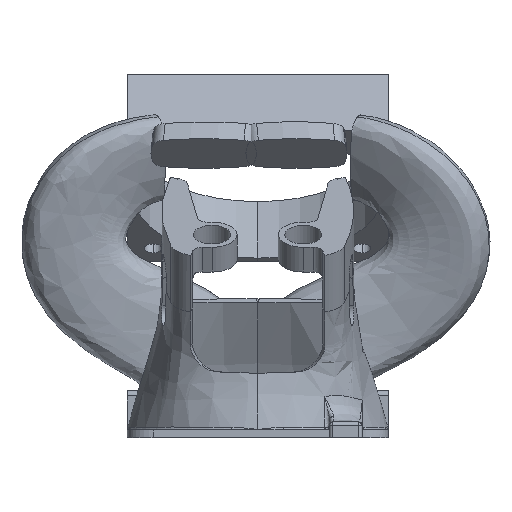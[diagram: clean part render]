
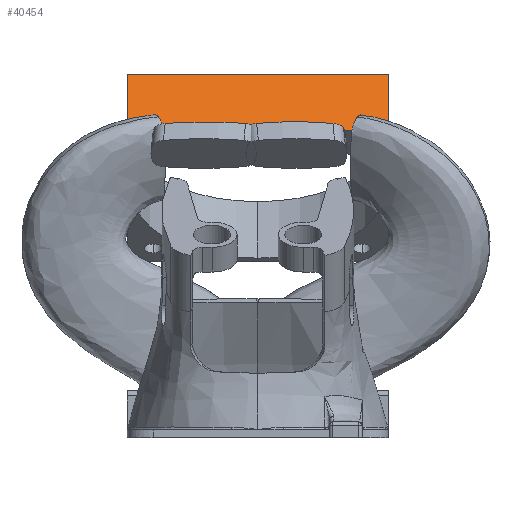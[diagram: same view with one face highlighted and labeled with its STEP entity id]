
A CAD part, front view. The second image highlights one B-rep face of the part: STEP entity #40454.
In plain terms, the highlighted planar face has unit normal (0, -0.866, 0.5).
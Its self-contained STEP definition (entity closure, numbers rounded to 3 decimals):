
#991 = VERTEX_POINT ( 'NONE', #72565 ) ;
#1232 = DIRECTION ( 'NONE',  ( 0., 0.866, -0.5 ) ) ;
#6567 = CARTESIAN_POINT ( 'NONE',  ( 0., -23., 47. ) ) ;
#7908 = FACE_OUTER_BOUND ( 'NONE', #25167, .T. ) ;
#14751 = DIRECTION ( 'NONE',  ( 0., -0.5, -0.866 ) ) ;
#17419 = VECTOR ( 'NONE', #19162, 1000. ) ;
#19162 = DIRECTION ( 'NONE',  ( 1., 0., 0. ) ) ;
#20858 = EDGE_CURVE ( 'NONE', #991, #77442, #64913, .T. ) ;
#22228 = ORIENTED_EDGE ( 'NONE', *, *, #76415, .T. ) ;
#22409 = EDGE_CURVE ( 'NONE', #991, #37638, #53344, .T. ) ;
#25167 = EDGE_LOOP ( 'NONE', ( #42322, #22228, #50766, #66578, #77341 ) ) ;
#26836 = LINE ( 'NONE', #52895, #17419 ) ;
#31633 = EDGE_CURVE ( 'NONE', #37638, #71626, #35333, .T. ) ;
#33324 = DIRECTION ( 'NONE',  ( 1., 0., 0. ) ) ;
#35333 = LINE ( 'NONE', #53939, #68964 ) ;
#35358 = EDGE_CURVE ( 'NONE', #77442, #55974, #26836, .T. ) ;
#37638 = VERTEX_POINT ( 'NONE', #87181 ) ;
#40454 = ADVANCED_FACE ( 'NONE', ( #7908 ), #55218, .F. ) ;
#42322 = ORIENTED_EDGE ( 'NONE', *, *, #35358, .T. ) ;
#42986 = CARTESIAN_POINT ( 'NONE',  ( -20., -23., 47. ) ) ;
#46851 = CARTESIAN_POINT ( 'NONE',  ( -20., -23., 47. ) ) ;
#50766 = ORIENTED_EDGE ( 'NONE', *, *, #31633, .F. ) ;
#52146 = VECTOR ( 'NONE', #33324, 1000. ) ;
#52611 = CARTESIAN_POINT ( 'NONE',  ( -20., -18., 55.66 ) ) ;
#52895 = CARTESIAN_POINT ( 'NONE',  ( -20., -23., 47. ) ) ;
#53344 = LINE ( 'NONE', #69932, #87011 ) ;
#53939 = CARTESIAN_POINT ( 'NONE',  ( 20., -18., 55.66 ) ) ;
#54054 = CARTESIAN_POINT ( 'NONE',  ( -20., -18., 55.66 ) ) ;
#55218 = PLANE ( 'NONE',  #72504 ) ;
#55974 = VERTEX_POINT ( 'NONE', #6567 ) ;
#64913 = LINE ( 'NONE', #52611, #79675 ) ;
#66578 = ORIENTED_EDGE ( 'NONE', *, *, #22409, .F. ) ;
#68964 = VECTOR ( 'NONE', #86594, 1000. ) ;
#69932 = CARTESIAN_POINT ( 'NONE',  ( -20., -18., 55.66 ) ) ;
#70041 = LINE ( 'NONE', #46851, #52146 ) ;
#71626 = VERTEX_POINT ( 'NONE', #75826 ) ;
#72504 = AXIS2_PLACEMENT_3D ( 'NONE', #54054, #1232, #75517 ) ;
#72565 = CARTESIAN_POINT ( 'NONE',  ( -20., -18., 55.66 ) ) ;
#75517 = DIRECTION ( 'NONE',  ( 0., 0.5, 0.866 ) ) ;
#75826 = CARTESIAN_POINT ( 'NONE',  ( 20., -23., 47. ) ) ;
#76099 = DIRECTION ( 'NONE',  ( 1., 0., 0. ) ) ;
#76415 = EDGE_CURVE ( 'NONE', #55974, #71626, #70041, .T. ) ;
#77341 = ORIENTED_EDGE ( 'NONE', *, *, #20858, .T. ) ;
#77442 = VERTEX_POINT ( 'NONE', #42986 ) ;
#79675 = VECTOR ( 'NONE', #14751, 1000. ) ;
#86594 = DIRECTION ( 'NONE',  ( 0., -0.5, -0.866 ) ) ;
#87011 = VECTOR ( 'NONE', #76099, 1000. ) ;
#87181 = CARTESIAN_POINT ( 'NONE',  ( 20., -18., 55.66 ) ) ;
